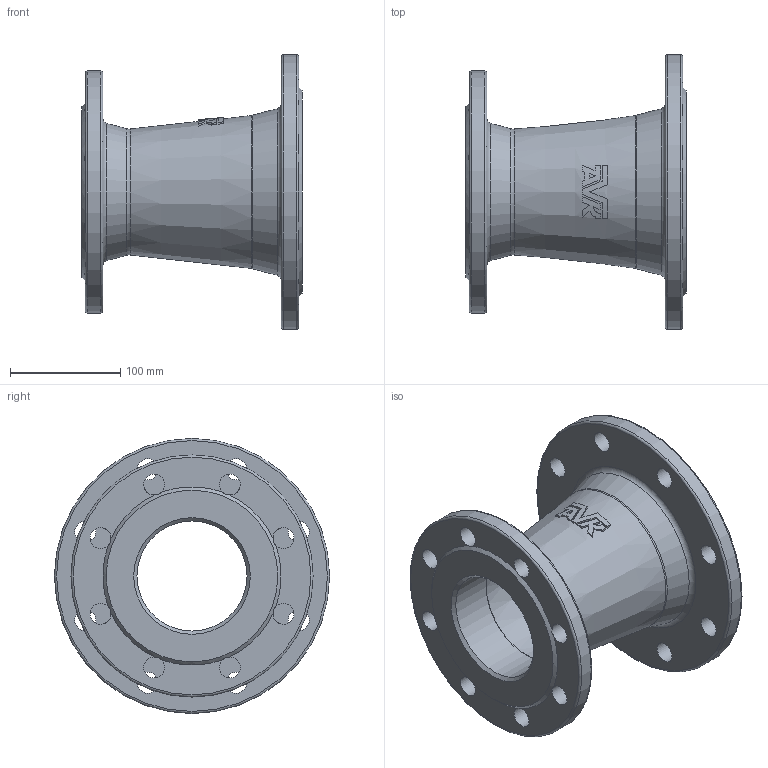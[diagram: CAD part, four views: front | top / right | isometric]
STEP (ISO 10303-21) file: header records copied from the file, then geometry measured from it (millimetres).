
FILE_DESCRIPTION (( 'STEP AP203' ), '1' );
FILE_NAME ('O_712_2210_DN125_DN100_1X_REV01.step', '2024-08-07T11:01:16', ( '' ), ( '' ), 'SwSTEP 2.0', 'SolidWorks 2022', '' );
FILE_SCHEMA (( 'CONFIG_CONTROL_DESIGN' ));
Length unit declared in the file: millimetre
Products named in the file (1): O_712_2210_DN125_DN100_1X_REV01
Bounding box: 200 x 250 x 250 mm (x, y, z)
Volume: 1577491.9 mm3; surface area: 287678.9 mm2
Topology: 1 solids, 1 shells, 85 faces, 246 edges, 163 vertices
Faces by surface type: plane 41, cylinder 22, cone 12, torus 10
Full cylindrical faces by diameter (mm): 19 x16, 100 x1, 125 x1, 220 x1, 250 x1
Entity records: 2728 total; most frequent: CARTESIAN_POINT 679, DIRECTION 407, ORIENTED_EDGE 372, EDGE_CURVE 186, AXIS2_PLACEMENT_3D 185, EDGE_LOOP 157, VERTEX_POINT 141, FACE_OUTER_BOUND 115
